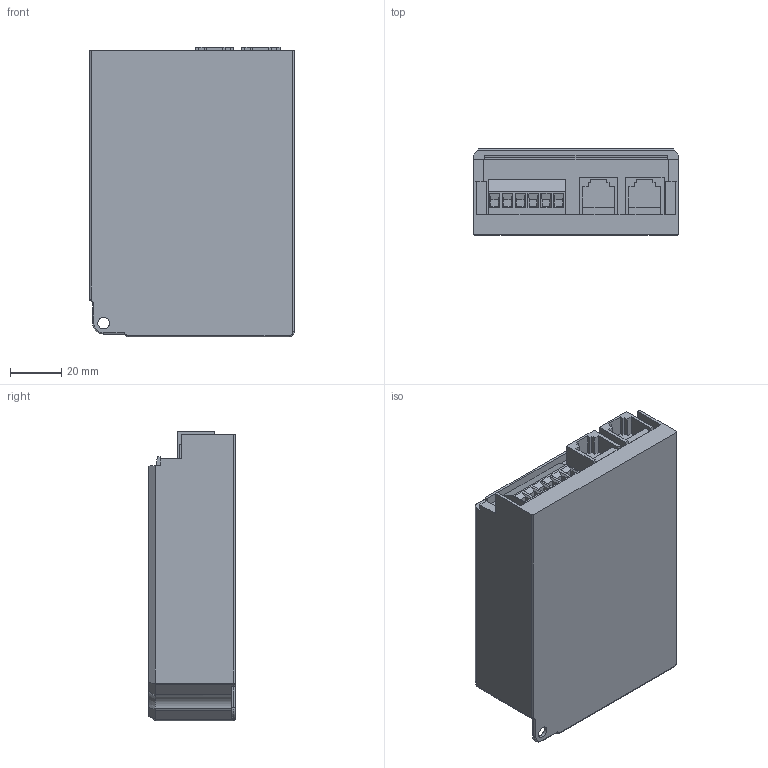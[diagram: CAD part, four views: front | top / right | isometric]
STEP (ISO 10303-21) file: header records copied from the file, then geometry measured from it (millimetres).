
FILE_DESCRIPTION((''),'2;1');
FILE_NAME('09550098Z_','2012-09-18T',('roger.heer'),(''),'PRO/ENGINEER BY PARAMETRIC TECHNOLOGY CORPORATION, 2010480','PRO/ENGINEER BY PARAMETRIC TECHNOLOGY CORPORATION, 2010480','');
FILE_SCHEMA(('AUTOMOTIVE_DESIGN { 1 2 10303 214 0 1 1 1 }'));
Length unit declared in the file: millimetre
Products named in the file (1): 09550098Z_
Bounding box: 79.5 x 33.5 x 112.64 mm (x, y, z)
Volume: 275242.3 mm3; surface area: 34433.1 mm2
Topology: 1 solids, 1 shells, 186 faces, 464 edges, 294 vertices
Faces by surface type: plane 151, cylinder 28, torus 4, cone 3
Entity records: 6958 total; most frequent: CARTESIAN_POINT 985, ORIENTED_EDGE 928, DIRECTION 882, PRESENTATION_STYLE_ASSIGNMENT 465, STYLED_ITEM 465, CURVE_STYLE 464, EDGE_CURVE 464, VECTOR 398
